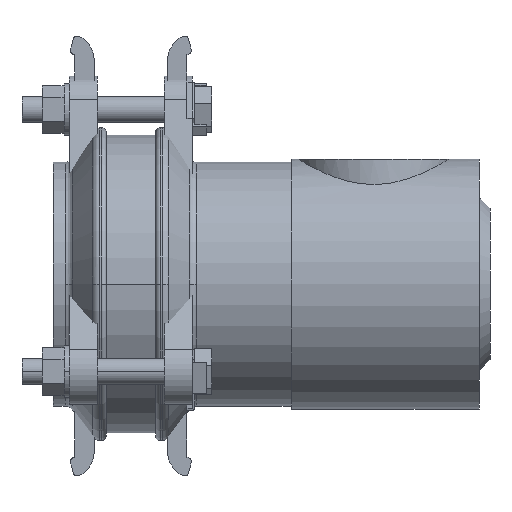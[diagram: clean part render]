
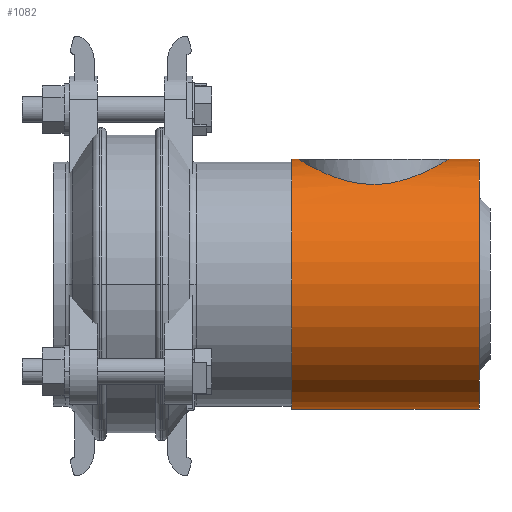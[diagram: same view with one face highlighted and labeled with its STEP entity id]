
A CAD part, front view. The second image highlights one B-rep face of the part: STEP entity #1082.
In plain terms, the highlighted cylindrical face has radius 58 mm (diameter 116 mm), a partial arc.
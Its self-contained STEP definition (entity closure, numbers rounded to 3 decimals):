
#1082=ADVANCED_FACE('',(#2029),#2030,.T.);
#2029=FACE_OUTER_BOUND('',#3094,.T.);
#2030=CYLINDRICAL_SURFACE('',#3095,58.0);
#3094=EDGE_LOOP('',(#5023,#5024,#5025,#5026,#5027,#5028));
#3095=AXIS2_PLACEMENT_3D('',#5029,#5030,#5031);
#5023=ORIENTED_EDGE('',*,*,#6008,.T.);
#5024=ORIENTED_EDGE('',*,*,#6492,.T.);
#5025=ORIENTED_EDGE('',*,*,#6012,.T.);
#5026=ORIENTED_EDGE('',*,*,#5800,.T.);
#5027=ORIENTED_EDGE('',*,*,#6010,.T.);
#5028=ORIENTED_EDGE('',*,*,#6453,.T.);
#5029=CARTESIAN_POINT('',(7.5,0.0,0.));
#5030=DIRECTION('',(1.0,0.0,0.));
#5031=DIRECTION('',(0.,0.0,-1.0));
#5800=EDGE_CURVE('',#6791,#6792,#6793,.T.);
#6008=EDGE_CURVE('',#7142,#7143,#7144,.T.);
#6010=EDGE_CURVE('',#6792,#7145,#7147,.T.);
#6012=EDGE_CURVE('',#7149,#6791,#7150,.T.);
#6453=EDGE_CURVE('',#7145,#7142,#7765,.T.);
#6492=EDGE_CURVE('',#7143,#7149,#7808,.T.);
#6791=VERTEX_POINT('',#8156);
#6792=VERTEX_POINT('',#8157);
#6793=B_SPLINE_CURVE_WITH_KNOTS('',3,(#8158,#8159,#8160,#8161,#8162,#8163,#8164,#8165,#8166,#8167,#8168,#8169,#8170,#8171,#8172,#8173,#8174,#8175,#8176,#8177,#8178,#8179,#8180,#8181,#8182,#8183,#8184,#8185,#8186,#8187,#8188,#8189,#8190,#8191,#8192,#8193,#8194,#8195,#8196,#8197,#8198,#8199,#8200,#8201,#8202,#8203,#8204,#8205,#8206,#8207,#8208,#8209,#8210,#8211,#8212,#8213,#8214,#8215,#8216,#8217,#8218,#8219,#8220,#8221,#8222,#8223),.UNSPECIFIED.,.F.,.F.,(4,2,2,2,2,2,2,2,2,2,2,2,2,2,2,2,2,2,2,2,2,2,2,2,2,2,2,2,2,2,2,2,4),(54.429,57.82,61.21,64.601,67.991,71.382,74.772,78.163,81.553,84.967,88.38,91.793,95.206,98.619,102.032,105.446,108.859,112.272,115.685,119.098,122.511,125.925,129.338,132.751,136.164,139.555,142.945,146.336,149.726,153.117,156.507,159.898,163.288),.UNSPECIFIED.);
#7142=VERTEX_POINT('',#8687);
#7143=VERTEX_POINT('',#8688);
#7144=LINE('',#8689,#8690);
#7145=VERTEX_POINT('',#8691);
#7147=LINE('',#8693,#8694);
#7149=VERTEX_POINT('',#8762);
#7150=LINE('',#8763,#8764);
#7765=CIRCLE('',#9587,58.0);
#7808=CIRCLE('',#9642,58.0);
#8156=CARTESIAN_POINT('',(80.5,0.,58.0));
#8157=CARTESIAN_POINT('',(10.5,0.0,58.0));
#8158=CARTESIAN_POINT('',(80.5,0.,58.0));
#8159=CARTESIAN_POINT('',(80.5,-1.13,58.0));
#8160=CARTESIAN_POINT('',(80.445,-2.275,57.967));
#8161=CARTESIAN_POINT('',(80.219,-4.572,57.831));
#8162=CARTESIAN_POINT('',(80.049,-5.724,57.728));
#8163=CARTESIAN_POINT('',(79.591,-8.012,57.456));
#8164=CARTESIAN_POINT('',(79.304,-9.148,57.285));
#8165=CARTESIAN_POINT('',(78.617,-11.386,56.883));
#8166=CARTESIAN_POINT('',(78.217,-12.488,56.651));
#8167=CARTESIAN_POINT('',(77.314,-14.636,56.134));
#8168=CARTESIAN_POINT('',(76.81,-15.685,55.849));
#8169=CARTESIAN_POINT('',(75.708,-17.714,55.239));
#8170=CARTESIAN_POINT('',(75.111,-18.695,54.914));
#8171=CARTESIAN_POINT('',(73.836,-20.575,54.237));
#8172=CARTESIAN_POINT('',(73.16,-21.475,53.886));
#8173=CARTESIAN_POINT('',(71.745,-23.183,53.173));
#8174=CARTESIAN_POINT('',(71.007,-23.991,52.812));
#8175=CARTESIAN_POINT('',(69.486,-25.512,52.095));
#8176=CARTESIAN_POINT('',(68.674,-26.253,51.725));
#8177=CARTESIAN_POINT('',(66.961,-27.671,50.98));
#8178=CARTESIAN_POINT('',(66.06,-28.347,50.606));
#8179=CARTESIAN_POINT('',(64.18,-29.62,49.872));
#8180=CARTESIAN_POINT('',(63.201,-30.216,49.512));
#8181=CARTESIAN_POINT('',(61.177,-31.314,48.825));
#8182=CARTESIAN_POINT('',(60.132,-31.816,48.498));
#8183=CARTESIAN_POINT('',(57.991,-32.716,47.895));
#8184=CARTESIAN_POINT('',(56.894,-33.114,47.62));
#8185=CARTESIAN_POINT('',(54.662,-33.8,47.136));
#8186=CARTESIAN_POINT('',(53.528,-34.087,46.927));
#8187=CARTESIAN_POINT('',(51.242,-34.545,46.591));
#8188=CARTESIAN_POINT('',(50.09,-34.717,46.462));
#8189=CARTESIAN_POINT('',(47.788,-34.944,46.292));
#8190=CARTESIAN_POINT('',(46.638,-35.0,46.249));
#8191=CARTESIAN_POINT('',(44.362,-35.0,46.249));
#8192=CARTESIAN_POINT('',(43.212,-34.944,46.292));
#8193=CARTESIAN_POINT('',(40.91,-34.717,46.462));
#8194=CARTESIAN_POINT('',(39.758,-34.545,46.591));
#8195=CARTESIAN_POINT('',(37.472,-34.087,46.927));
#8196=CARTESIAN_POINT('',(36.338,-33.8,47.136));
#8197=CARTESIAN_POINT('',(34.106,-33.114,47.62));
#8198=CARTESIAN_POINT('',(33.009,-32.716,47.895));
#8199=CARTESIAN_POINT('',(30.868,-31.816,48.498));
#8200=CARTESIAN_POINT('',(29.823,-31.314,48.825));
#8201=CARTESIAN_POINT('',(27.799,-30.216,49.512));
#8202=CARTESIAN_POINT('',(26.82,-29.62,49.872));
#8203=CARTESIAN_POINT('',(24.94,-28.347,50.606));
#8204=CARTESIAN_POINT('',(24.039,-27.671,50.98));
#8205=CARTESIAN_POINT('',(22.326,-26.253,51.725));
#8206=CARTESIAN_POINT('',(21.514,-25.512,52.095));
#8207=CARTESIAN_POINT('',(19.993,-23.991,52.812));
#8208=CARTESIAN_POINT('',(19.255,-23.183,53.173));
#8209=CARTESIAN_POINT('',(17.84,-21.475,53.886));
#8210=CARTESIAN_POINT('',(17.164,-20.575,54.237));
#8211=CARTESIAN_POINT('',(15.889,-18.695,54.914));
#8212=CARTESIAN_POINT('',(15.292,-17.714,55.239));
#8213=CARTESIAN_POINT('',(14.19,-15.685,55.849));
#8214=CARTESIAN_POINT('',(13.686,-14.636,56.134));
#8215=CARTESIAN_POINT('',(12.783,-12.488,56.651));
#8216=CARTESIAN_POINT('',(12.383,-11.386,56.883));
#8217=CARTESIAN_POINT('',(11.696,-9.148,57.285));
#8218=CARTESIAN_POINT('',(11.409,-8.012,57.456));
#8219=CARTESIAN_POINT('',(10.951,-5.724,57.728));
#8220=CARTESIAN_POINT('',(10.781,-4.572,57.831));
#8221=CARTESIAN_POINT('',(10.555,-2.275,57.967));
#8222=CARTESIAN_POINT('',(10.5,-1.13,58.0));
#8223=CARTESIAN_POINT('',(10.5,0.0,58.0));
#8687=CARTESIAN_POINT('',(7.5,0.0,-58.0));
#8688=CARTESIAN_POINT('',(94.5,0.0,-58.0));
#8689=CARTESIAN_POINT('',(7.5,0.,-58.0));
#8690=VECTOR('',#10221,1.0);
#8691=CARTESIAN_POINT('',(7.5,0.,58.0));
#8693=CARTESIAN_POINT('',(7.5,0.,58.0));
#8694=VECTOR('',#10225,1.0);
#8762=CARTESIAN_POINT('',(94.5,0.,58.0));
#8763=CARTESIAN_POINT('',(7.5,0.,58.0));
#8764=VECTOR('',#10226,1.0);
#9587=AXIS2_PLACEMENT_3D('',#10717,#10718,#10719);
#9642=AXIS2_PLACEMENT_3D('',#10756,#10757,#10758);
#10221=DIRECTION('',(1.0,0.0,0.));
#10225=DIRECTION('',(-1.0,-0.0,0.));
#10226=DIRECTION('',(-1.0,-0.0,0.));
#10717=CARTESIAN_POINT('',(7.5,0.0,0.));
#10718=DIRECTION('',(1.0,0.0,0.));
#10719=DIRECTION('',(0.,0.0,-1.0));
#10756=CARTESIAN_POINT('',(94.5,0.0,0.));
#10757=DIRECTION('',(-1.0,-0.0,0.));
#10758=DIRECTION('',(0.,0.0,-1.0));
